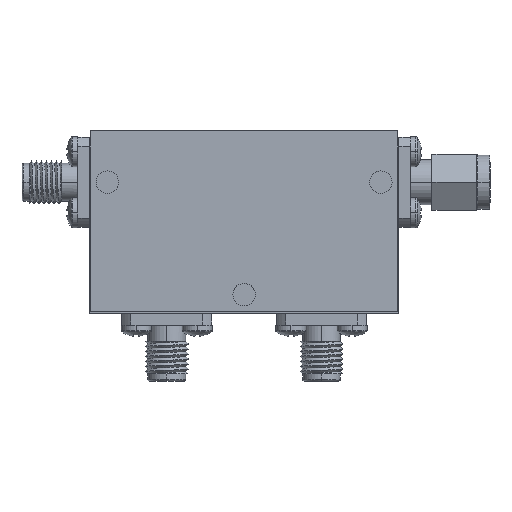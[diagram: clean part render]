
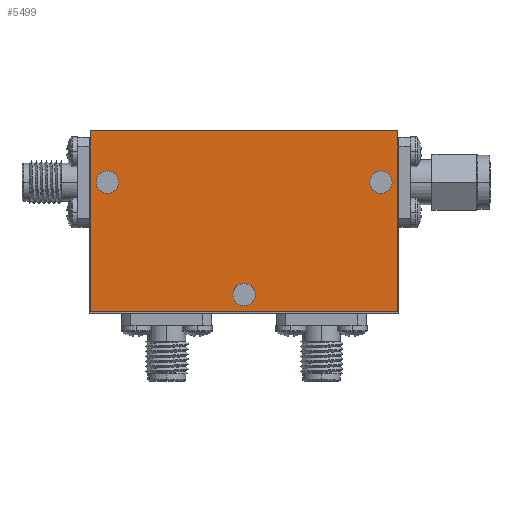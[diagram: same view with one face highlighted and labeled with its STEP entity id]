
A CAD part, top view. The second image highlights one B-rep face of the part: STEP entity #5499.
In plain terms, the highlighted planar face has unit normal (0, 0, 1).
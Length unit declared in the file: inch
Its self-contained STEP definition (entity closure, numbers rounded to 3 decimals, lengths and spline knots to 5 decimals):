
#304 = ORIENTED_EDGE ( 'NONE', *, *, #1130, .T. ) ;
#522 = VERTEX_POINT ( 'NONE', #4317 ) ;
#536 = CARTESIAN_POINT ( 'NONE',  ( -0.76, 0.1875, 0.574 ) ) ;
#583 = CARTESIAN_POINT ( 'NONE',  ( 0.855, -0.5325, 0.574 ) ) ;
#604 = CARTESIAN_POINT ( 'NONE',  ( 0.855, 0.4725, 0.574 ) ) ;
#667 = DIRECTION ( 'NONE',  ( 1., 0., 0. ) ) ;
#867 = CIRCLE ( 'NONE', #4504, 0.0625 ) ;
#869 = LINE ( 'NONE', #1179, #2974 ) ;
#876 = CARTESIAN_POINT ( 'NONE',  ( -0.855, 0.4725, 0.574 ) ) ;
#963 = DIRECTION ( 'NONE',  ( 1., 0., 0. ) ) ;
#976 = ORIENTED_EDGE ( 'NONE', *, *, #982, .F. ) ;
#982 = EDGE_CURVE ( 'NONE', #5892, #2128, #1019, .T. ) ;
#1019 = CIRCLE ( 'NONE', #4941, 0.0625 ) ;
#1059 = CARTESIAN_POINT ( 'NONE',  ( 0.0625, -0.4375, 0.574 ) ) ;
#1067 = VECTOR ( 'NONE', #1076, 39.37008 ) ;
#1076 = DIRECTION ( 'NONE',  ( 0., 1., 0. ) ) ;
#1130 = EDGE_CURVE ( 'NONE', #5665, #2988, #869, .T. ) ;
#1150 = FACE_BOUND ( 'NONE', #1886, .T. ) ;
#1179 = CARTESIAN_POINT ( 'NONE',  ( -0.855, -0.5325, 0.574 ) ) ;
#1301 = CIRCLE ( 'NONE', #1950, 0.0625 ) ;
#1347 = VECTOR ( 'NONE', #4054, 39.37008 ) ;
#1356 = FACE_OUTER_BOUND ( 'NONE', #5728, .T. ) ;
#1524 = ORIENTED_EDGE ( 'NONE', *, *, #5208, .F. ) ;
#1698 = CARTESIAN_POINT ( 'NONE',  ( -0.0625, -0.4375, 0.574 ) ) ;
#1746 = EDGE_CURVE ( 'NONE', #3056, #522, #2410, .T. ) ;
#1767 = DIRECTION ( 'NONE',  ( 0., 0., 1. ) ) ;
#1773 = FACE_BOUND ( 'NONE', #4270, .T. ) ;
#1886 = EDGE_LOOP ( 'NONE', ( #4431, #2465 ) ) ;
#1921 = DIRECTION ( 'NONE',  ( 1., 0., 0. ) ) ;
#1950 = AXIS2_PLACEMENT_3D ( 'NONE', #4437, #3925, #4878 ) ;
#1983 = CIRCLE ( 'NONE', #4539, 0.0625 ) ;
#2003 = VECTOR ( 'NONE', #3494, 39.37008 ) ;
#2121 = ORIENTED_EDGE ( 'NONE', *, *, #3312, .T. ) ;
#2128 = VERTEX_POINT ( 'NONE', #3525 ) ;
#2156 = ORIENTED_EDGE ( 'NONE', *, *, #4011, .F. ) ;
#2350 = DIRECTION ( 'NONE',  ( 0., 0., 1. ) ) ;
#2410 = LINE ( 'NONE', #3033, #2003 ) ;
#2465 = ORIENTED_EDGE ( 'NONE', *, *, #3239, .F. ) ;
#2515 = VERTEX_POINT ( 'NONE', #1698 ) ;
#2517 = ORIENTED_EDGE ( 'NONE', *, *, #5591, .F. ) ;
#2526 = LINE ( 'NONE', #876, #1347 ) ;
#2536 = FACE_BOUND ( 'NONE', #4180, .T. ) ;
#2589 = DIRECTION ( 'NONE',  ( 0., 0., 1. ) ) ;
#2620 = CARTESIAN_POINT ( 'NONE',  ( 0.8225, 0.1875, 0.574 ) ) ;
#2812 = CARTESIAN_POINT ( 'NONE',  ( -0.8225, 0.1875, 0.574 ) ) ;
#2964 = CIRCLE ( 'NONE', #5768, 0.0625 ) ;
#2974 = VECTOR ( 'NONE', #667, 39.37008 ) ;
#2988 = VERTEX_POINT ( 'NONE', #583 ) ;
#3008 = EDGE_CURVE ( 'NONE', #2988, #3056, #4150, .T. ) ;
#3033 = CARTESIAN_POINT ( 'NONE',  ( -0.855, 0.4725, 0.574 ) ) ;
#3056 = VERTEX_POINT ( 'NONE', #5248 ) ;
#3076 = DIRECTION ( 'NONE',  ( 1., 0., 0. ) ) ;
#3097 = AXIS2_PLACEMENT_3D ( 'NONE', #4377, #4790, #4343 ) ;
#3113 = DIRECTION ( 'NONE',  ( 1., 0., 0. ) ) ;
#3188 = CARTESIAN_POINT ( 'NONE',  ( 0.76, 0.1875, 0.574 ) ) ;
#3239 = EDGE_CURVE ( 'NONE', #2515, #4994, #5622, .T. ) ;
#3312 = EDGE_CURVE ( 'NONE', #522, #5665, #2526, .T. ) ;
#3393 = EDGE_CURVE ( 'NONE', #4994, #2515, #1983, .T. ) ;
#3494 = DIRECTION ( 'NONE',  ( -1., 0., 0. ) ) ;
#3525 = CARTESIAN_POINT ( 'NONE',  ( 0.6975, 0.1875, 0.574 ) ) ;
#3676 = DIRECTION ( 'NONE',  ( 0., 0., 1. ) ) ;
#3781 = CARTESIAN_POINT ( 'NONE',  ( 0.76, 0.1875, 0.574 ) ) ;
#3890 = VERTEX_POINT ( 'NONE', #2812 ) ;
#3900 = ORIENTED_EDGE ( 'NONE', *, *, #1746, .T. ) ;
#3925 = DIRECTION ( 'NONE',  ( 0., 0., 1. ) ) ;
#4004 = CARTESIAN_POINT ( 'NONE',  ( -0.855, -0.5325, 0.574 ) ) ;
#4011 = EDGE_CURVE ( 'NONE', #3890, #5533, #867, .T. ) ;
#4054 = DIRECTION ( 'NONE',  ( 0., -1., 0. ) ) ;
#4094 = CARTESIAN_POINT ( 'NONE',  ( 0., -0.4375, 0.574 ) ) ;
#4150 = LINE ( 'NONE', #604, #1067 ) ;
#4180 = EDGE_LOOP ( 'NONE', ( #2517, #2156 ) ) ;
#4260 = ORIENTED_EDGE ( 'NONE', *, *, #3008, .T. ) ;
#4270 = EDGE_LOOP ( 'NONE', ( #976, #1524 ) ) ;
#4317 = CARTESIAN_POINT ( 'NONE',  ( -0.855, 0.4725, 0.574 ) ) ;
#4343 = DIRECTION ( 'NONE',  ( 1., 0., 0. ) ) ;
#4377 = CARTESIAN_POINT ( 'NONE',  ( 0., 0., 0.574 ) ) ;
#4431 = ORIENTED_EDGE ( 'NONE', *, *, #3393, .F. ) ;
#4437 = CARTESIAN_POINT ( 'NONE',  ( -0.76, 0.1875, 0.574 ) ) ;
#4504 = AXIS2_PLACEMENT_3D ( 'NONE', #536, #3676, #963 ) ;
#4539 = AXIS2_PLACEMENT_3D ( 'NONE', #4094, #1767, #3113 ) ;
#4764 = CARTESIAN_POINT ( 'NONE',  ( -0.6975, 0.1875, 0.574 ) ) ;
#4790 = DIRECTION ( 'NONE',  ( 0., 0., 1. ) ) ;
#4830 = PLANE ( 'NONE',  #3097 ) ;
#4878 = DIRECTION ( 'NONE',  ( 1., 0., 0. ) ) ;
#4941 = AXIS2_PLACEMENT_3D ( 'NONE', #3781, #5628, #1921 ) ;
#4960 = AXIS2_PLACEMENT_3D ( 'NONE', #5404, #2589, #3076 ) ;
#4994 = VERTEX_POINT ( 'NONE', #1059 ) ;
#5061 = DIRECTION ( 'NONE',  ( 1., 0., 0. ) ) ;
#5208 = EDGE_CURVE ( 'NONE', #2128, #5892, #2964, .T. ) ;
#5248 = CARTESIAN_POINT ( 'NONE',  ( 0.855, 0.4725, 0.574 ) ) ;
#5404 = CARTESIAN_POINT ( 'NONE',  ( 0., -0.4375, 0.574 ) ) ;
#5499 = ADVANCED_FACE ( 'NONE', ( #1773, #1150, #2536, #1356 ), #4830, .T. ) ;
#5533 = VERTEX_POINT ( 'NONE', #4764 ) ;
#5591 = EDGE_CURVE ( 'NONE', #5533, #3890, #1301, .T. ) ;
#5622 = CIRCLE ( 'NONE', #4960, 0.0625 ) ;
#5628 = DIRECTION ( 'NONE',  ( 0., 0., 1. ) ) ;
#5665 = VERTEX_POINT ( 'NONE', #4004 ) ;
#5728 = EDGE_LOOP ( 'NONE', ( #4260, #3900, #2121, #304 ) ) ;
#5768 = AXIS2_PLACEMENT_3D ( 'NONE', #3188, #2350, #5061 ) ;
#5892 = VERTEX_POINT ( 'NONE', #2620 ) ;
